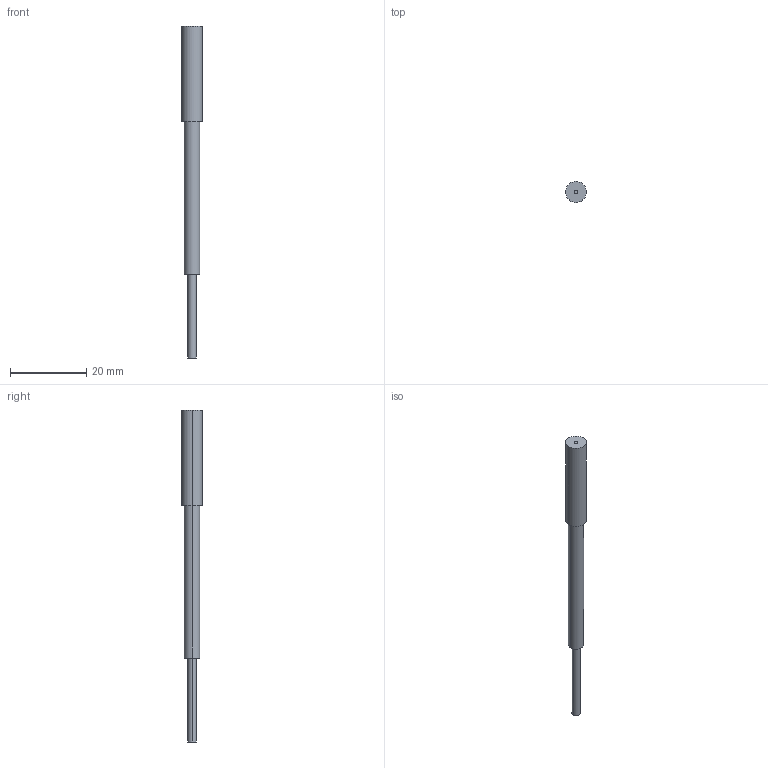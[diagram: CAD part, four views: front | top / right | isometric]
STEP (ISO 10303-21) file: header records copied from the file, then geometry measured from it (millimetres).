
FILE_DESCRIPTION (( 'STEP AP203' ), '1' );
FILE_NAME ('FT-L8Y.STEP', '2005-09-08T02:11:01', ( '' ), ( '' ), 'SwSTEP 2.0', 'SolidWorks 2004073', '' );
FILE_SCHEMA (( 'CONFIG_CONTROL_DESIGN' ));
Length unit declared in the file: millimetre
Products named in the file (1): FT-L8Y
Bounding box: 5.5 x 5.5 x 87 mm (x, y, z)
Volume: 1180.2 mm3; surface area: 1134.5 mm2
Topology: 1 solids, 1 shells, 13 faces, 24 edges, 16 vertices
Faces by surface type: cylinder 8, plane 5
Entity records: 411 total; most frequent: DIRECTION 68, CARTESIAN_POINT 54, ORIENTED_EDGE 48, AXIS2_PLACEMENT_3D 30, EDGE_CURVE 24, EDGE_LOOP 16, VERTEX_POINT 16, CIRCLE 16
